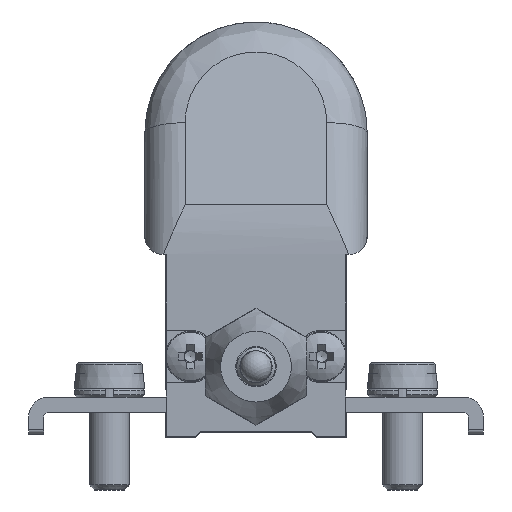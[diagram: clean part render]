
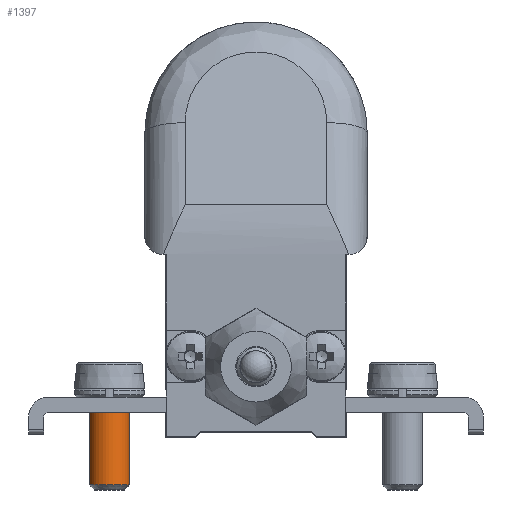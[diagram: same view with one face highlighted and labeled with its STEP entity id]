
A CAD part, front view. The second image highlights one B-rep face of the part: STEP entity #1397.
In plain terms, the highlighted cylindrical face has radius 2 mm (diameter 4 mm), a full revolution.
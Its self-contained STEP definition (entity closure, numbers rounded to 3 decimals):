
#1397 = ADVANCED_FACE( '', ( #3052, #3053 ), #3054, .T. );
#3052 = FACE_OUTER_BOUND( '', #9991, .T. );
#3053 = FACE_OUTER_BOUND( '', #9992, .T. );
#3054 = CYLINDRICAL_SURFACE( '', #9993, 2. );
#9991 = EDGE_LOOP( '', ( #14023 ) );
#9992 = EDGE_LOOP( '', ( #14024 ) );
#9993 = AXIS2_PLACEMENT_3D( '', #14025, #14026, #14027 );
#14023 = ORIENTED_EDGE( '', *, *, #15503, .T. );
#14024 = ORIENTED_EDGE( '', *, *, #17003, .T. );
#14025 = CARTESIAN_POINT( '', ( -14.5, 11., 32.8 ) );
#14026 = DIRECTION( '', ( 0., 0., -1. ) );
#14027 = DIRECTION( '', ( 1., 0., 0. ) );
#15503 = EDGE_CURVE( '', #17922, #17922, #17923, .F. );
#17003 = EDGE_CURVE( '', #20588, #20588, #20589, .T. );
#17922 = VERTEX_POINT( '', #22467 );
#17923 = CIRCLE( '', #22468, 2. );
#20588 = VERTEX_POINT( '', #27966 );
#20589 = CIRCLE( '', #27967, 2. );
#22467 = CARTESIAN_POINT( '', ( -16.5, 11., -4.7 ) );
#22468 = AXIS2_PLACEMENT_3D( '', #30526, #30527, #30528 );
#27966 = CARTESIAN_POINT( '', ( -12.5, 11., 3.8 ) );
#27967 = AXIS2_PLACEMENT_3D( '', #32603, #32604, #32605 );
#30526 = CARTESIAN_POINT( '', ( -14.5, 11., -4.7 ) );
#30527 = DIRECTION( '', ( 0., 0., -1. ) );
#30528 = DIRECTION( '', ( -1., 0., 0. ) );
#32603 = CARTESIAN_POINT( '', ( -14.5, 11., 3.8 ) );
#32604 = DIRECTION( '', ( 0., 0., -1. ) );
#32605 = DIRECTION( '', ( 1., 0., 0. ) );
